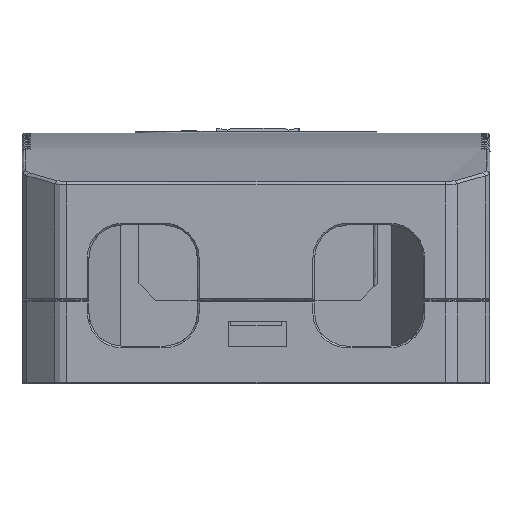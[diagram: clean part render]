
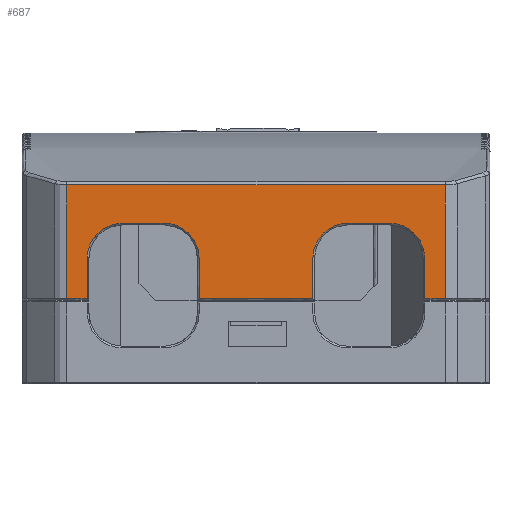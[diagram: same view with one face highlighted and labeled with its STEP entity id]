
A CAD part, left-side view. The second image highlights one B-rep face of the part: STEP entity #687.
In plain terms, the highlighted planar face has unit normal (-1, 0, 0).
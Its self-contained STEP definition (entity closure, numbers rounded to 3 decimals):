
#687=ADVANCED_FACE('',(#2656),#30878,.T.);
#2656=FACE_OUTER_BOUND('',#4658,.T.);
#4658=EDGE_LOOP('',(#9167,#9168,#9169,#9170,#9171,#9172,#9173,#9174,#9175,
#9176,#9177,#9178,#9179,#9180,#9181,#9182));
#9167=ORIENTED_EDGE('',*,*,#17674,.T.);
#9168=ORIENTED_EDGE('',*,*,#17673,.F.);
#9169=ORIENTED_EDGE('',*,*,#17675,.T.);
#9170=ORIENTED_EDGE('',*,*,#18733,.T.);
#9171=ORIENTED_EDGE('',*,*,#17676,.T.);
#9172=ORIENTED_EDGE('',*,*,#17677,.T.);
#9173=ORIENTED_EDGE('',*,*,#17754,.T.);
#9174=ORIENTED_EDGE('',*,*,#17678,.T.);
#9175=ORIENTED_EDGE('',*,*,#17679,.T.);
#9176=ORIENTED_EDGE('',*,*,#17721,.T.);
#9177=ORIENTED_EDGE('',*,*,#17680,.T.);
#9178=ORIENTED_EDGE('',*,*,#17709,.T.);
#9179=ORIENTED_EDGE('',*,*,#17681,.T.);
#9180=ORIENTED_EDGE('',*,*,#17700,.T.);
#9181=ORIENTED_EDGE('',*,*,#17682,.T.);
#9182=ORIENTED_EDGE('',*,*,#17683,.T.);
#17673=EDGE_CURVE('',#27320,#27319,#21380,.T.);
#17674=EDGE_CURVE('',#27321,#27319,#23209,.T.);
#17675=EDGE_CURVE('',#27320,#27322,#23210,.T.);
#17676=EDGE_CURVE('',#27323,#27324,#23211,.T.);
#17677=EDGE_CURVE('',#27324,#27325,#23212,.T.);
#17678=EDGE_CURVE('',#27326,#27327,#23213,.T.);
#17679=EDGE_CURVE('',#27327,#27328,#23214,.T.);
#17680=EDGE_CURVE('',#27329,#27330,#23215,.T.);
#17681=EDGE_CURVE('',#27331,#27332,#23216,.T.);
#17682=EDGE_CURVE('',#27333,#27334,#23217,.T.);
#17683=EDGE_CURVE('',#27334,#27321,#23218,.T.);
#17700=EDGE_CURVE('',#27332,#27333,#21387,.T.);
#17709=EDGE_CURVE('',#27330,#27331,#21392,.T.);
#17721=EDGE_CURVE('',#27328,#27329,#23237,.T.);
#17754=EDGE_CURVE('',#27325,#27326,#23258,.T.);
#18733=EDGE_CURVE('',#27322,#27323,#21560,.T.);
#21380=(
BOUNDED_CURVE()
B_SPLINE_CURVE(2,(#64770,#64771,#64772),.UNSPECIFIED.,.F.,.F.)
B_SPLINE_CURVE_WITH_KNOTS((3,3),(0.,8.4),.UNSPECIFIED.)
CURVE()
GEOMETRIC_REPRESENTATION_ITEM()
RATIONAL_B_SPLINE_CURVE((1.,0.707,1.))
REPRESENTATION_ITEM('')
);
#21387=(
BOUNDED_CURVE()
B_SPLINE_CURVE(2,(#64831,#64832,#64833),.UNSPECIFIED.,.F.,.F.)
B_SPLINE_CURVE_WITH_KNOTS((3,3),(-8.4,0.),.UNSPECIFIED.)
CURVE()
GEOMETRIC_REPRESENTATION_ITEM()
RATIONAL_B_SPLINE_CURVE((1.,0.707,1.))
REPRESENTATION_ITEM('')
);
#21392=(
BOUNDED_CURVE()
B_SPLINE_CURVE(2,(#64854,#64855,#64856),.UNSPECIFIED.,.F.,.F.)
B_SPLINE_CURVE_WITH_KNOTS((3,3),(-8.4,0.),.UNSPECIFIED.)
CURVE()
GEOMETRIC_REPRESENTATION_ITEM()
RATIONAL_B_SPLINE_CURVE((1.,0.707,1.))
REPRESENTATION_ITEM('')
);
#21560=(
BOUNDED_CURVE()
B_SPLINE_CURVE(2,(#69435,#69436,#69437),.UNSPECIFIED.,.F.,.F.)
B_SPLINE_CURVE_WITH_KNOTS((3,3),(-8.4,0.),.UNSPECIFIED.)
CURVE()
GEOMETRIC_REPRESENTATION_ITEM()
RATIONAL_B_SPLINE_CURVE((1.,0.707,1.))
REPRESENTATION_ITEM('')
);
#23209=B_SPLINE_CURVE_WITH_KNOTS('',1,(#64773,#64774),.UNSPECIFIED.,.F.,
 .F.,(2,2),(0.,4.8),.UNSPECIFIED.);
#23210=B_SPLINE_CURVE_WITH_KNOTS('',1,(#64775,#64776),.UNSPECIFIED.,.F.,
 .F.,(2,2),(0.,5.),.UNSPECIFIED.);
#23211=B_SPLINE_CURVE_WITH_KNOTS('',1,(#64777,#64778),.UNSPECIFIED.,.F.,
 .F.,(2,2),(0.,4.8),.UNSPECIFIED.);
#23212=B_SPLINE_CURVE_WITH_KNOTS('',1,(#64779,#64780),.UNSPECIFIED.,.F.,
 .F.,(2,2),(0.,2.472),.UNSPECIFIED.);
#23213=B_SPLINE_CURVE_WITH_KNOTS('',1,(#64781,#64782),.UNSPECIFIED.,.F.,
 .F.,(2,2),(0.,45.343),.UNSPECIFIED.);
#23214=B_SPLINE_CURVE_WITH_KNOTS('',1,(#64783,#64784),.UNSPECIFIED.,.F.,
 .F.,(2,2),(0.,13.589),.UNSPECIFIED.);
#23215=B_SPLINE_CURVE_WITH_KNOTS('',1,(#64785,#64786),.UNSPECIFIED.,.F.,
 .F.,(2,2),(0.,4.8),.UNSPECIFIED.);
#23216=B_SPLINE_CURVE_WITH_KNOTS('',1,(#64787,#64788),.UNSPECIFIED.,.F.,
 .F.,(2,2),(0.,5.),.UNSPECIFIED.);
#23217=B_SPLINE_CURVE_WITH_KNOTS('',1,(#64789,#64790),.UNSPECIFIED.,.F.,
 .F.,(2,2),(0.,4.8),.UNSPECIFIED.);
#23218=B_SPLINE_CURVE_WITH_KNOTS('',1,(#64791,#64792),.UNSPECIFIED.,.F.,
 .F.,(2,2),(0.,13.6),.UNSPECIFIED.);
#23237=B_SPLINE_CURVE_WITH_KNOTS('',1,(#64886,#64887),.UNSPECIFIED.,.F.,
 .F.,(2,2),(-2.472,0.),.UNSPECIFIED.);
#23258=B_SPLINE_CURVE_WITH_KNOTS('',1,(#64992,#64993),.UNSPECIFIED.,.F.,
 .F.,(2,2),(-13.589,0.),.UNSPECIFIED.);
#27319=VERTEX_POINT('',#62587);
#27320=VERTEX_POINT('',#62588);
#27321=VERTEX_POINT('',#62589);
#27322=VERTEX_POINT('',#62590);
#27323=VERTEX_POINT('',#62591);
#27324=VERTEX_POINT('',#62592);
#27325=VERTEX_POINT('',#62593);
#27326=VERTEX_POINT('',#62594);
#27327=VERTEX_POINT('',#62595);
#27328=VERTEX_POINT('',#62596);
#27329=VERTEX_POINT('',#62597);
#27330=VERTEX_POINT('',#62598);
#27331=VERTEX_POINT('',#62599);
#27332=VERTEX_POINT('',#62600);
#27333=VERTEX_POINT('',#62601);
#27334=VERTEX_POINT('',#62602);
#30878=PLANE('',#31545);
#31545=AXIS2_PLACEMENT_3D('',#55134,#32195,$);
#32195=DIRECTION('',(-1.,0.,0.));
#55134=CARTESIAN_POINT('',(424.252,-80.537,-39.577));
#62587=CARTESIAN_POINT('',(424.25,-114.8,-49.982));
#62588=CARTESIAN_POINT('',(424.25,-119.,-45.782));
#62589=CARTESIAN_POINT('',(424.249,-114.8,-54.782));
#62590=CARTESIAN_POINT('',(424.25,-124.,-45.782));
#62591=CARTESIAN_POINT('',(424.25,-128.2,-49.982));
#62592=CARTESIAN_POINT('',(424.249,-128.2,-54.782));
#62593=CARTESIAN_POINT('',(424.249,-130.671,-54.782));
#62594=CARTESIAN_POINT('',(424.251,-130.671,-41.193));
#62595=CARTESIAN_POINT('',(424.251,-85.328,-41.193));
#62596=CARTESIAN_POINT('',(424.249,-85.328,-54.782));
#62597=CARTESIAN_POINT('',(424.249,-87.8,-54.782));
#62598=CARTESIAN_POINT('',(424.25,-87.8,-49.982));
#62599=CARTESIAN_POINT('',(424.25,-92.,-45.782));
#62600=CARTESIAN_POINT('',(424.25,-97.,-45.782));
#62601=CARTESIAN_POINT('',(424.25,-101.2,-49.982));
#62602=CARTESIAN_POINT('',(424.249,-101.2,-54.782));
#64770=CARTESIAN_POINT('',(424.25,-119.,-45.782));
#64771=CARTESIAN_POINT('',(424.25,-114.8,-45.782));
#64772=CARTESIAN_POINT('',(424.25,-114.8,-49.982));
#64773=CARTESIAN_POINT('',(424.249,-114.8,-54.782));
#64774=CARTESIAN_POINT('',(424.25,-114.8,-49.982));
#64775=CARTESIAN_POINT('',(424.25,-119.,-45.782));
#64776=CARTESIAN_POINT('',(424.25,-124.,-45.782));
#64777=CARTESIAN_POINT('',(424.25,-128.2,-49.982));
#64778=CARTESIAN_POINT('',(424.249,-128.2,-54.782));
#64779=CARTESIAN_POINT('',(424.249,-128.2,-54.782));
#64780=CARTESIAN_POINT('',(424.249,-130.671,-54.782));
#64781=CARTESIAN_POINT('',(424.251,-130.671,-41.193));
#64782=CARTESIAN_POINT('',(424.251,-85.328,-41.193));
#64783=CARTESIAN_POINT('',(424.251,-85.328,-41.193));
#64784=CARTESIAN_POINT('',(424.249,-85.328,-54.782));
#64785=CARTESIAN_POINT('',(424.249,-87.8,-54.782));
#64786=CARTESIAN_POINT('',(424.25,-87.8,-49.982));
#64787=CARTESIAN_POINT('',(424.25,-92.,-45.782));
#64788=CARTESIAN_POINT('',(424.25,-97.,-45.782));
#64789=CARTESIAN_POINT('',(424.25,-101.2,-49.982));
#64790=CARTESIAN_POINT('',(424.249,-101.2,-54.782));
#64791=CARTESIAN_POINT('',(424.249,-101.2,-54.782));
#64792=CARTESIAN_POINT('',(424.249,-114.8,-54.782));
#64831=CARTESIAN_POINT('',(424.25,-97.,-45.782));
#64832=CARTESIAN_POINT('',(424.25,-101.2,-45.782));
#64833=CARTESIAN_POINT('',(424.25,-101.2,-49.982));
#64854=CARTESIAN_POINT('',(424.25,-87.8,-49.982));
#64855=CARTESIAN_POINT('',(424.25,-87.8,-45.782));
#64856=CARTESIAN_POINT('',(424.25,-92.,-45.782));
#64886=CARTESIAN_POINT('',(424.249,-85.328,-54.782));
#64887=CARTESIAN_POINT('',(424.249,-87.8,-54.782));
#64992=CARTESIAN_POINT('',(424.249,-130.671,-54.782));
#64993=CARTESIAN_POINT('',(424.251,-130.671,-41.193));
#69435=CARTESIAN_POINT('',(424.25,-124.,-45.782));
#69436=CARTESIAN_POINT('',(424.25,-128.2,-45.782));
#69437=CARTESIAN_POINT('',(424.25,-128.2,-49.982));
